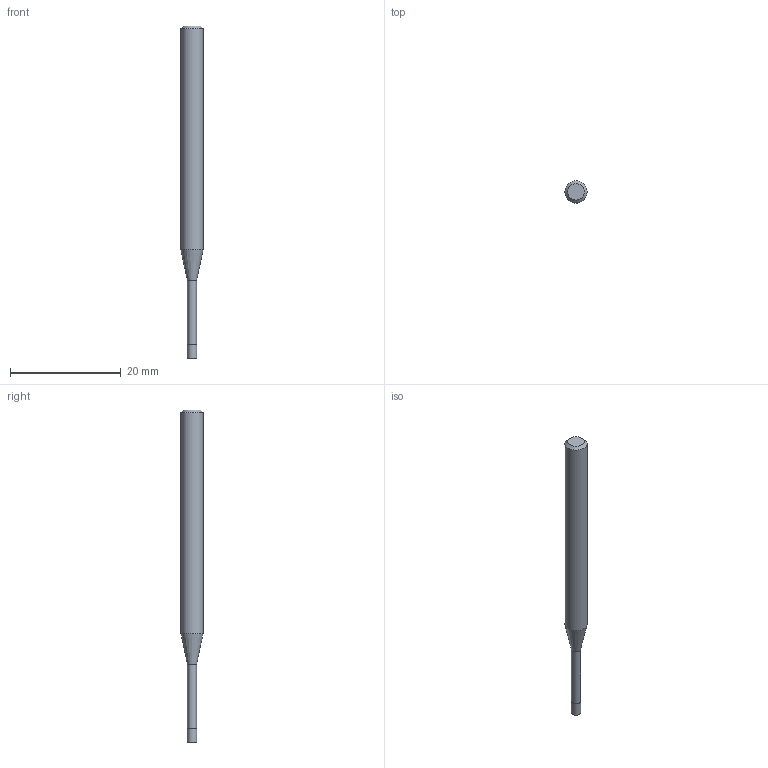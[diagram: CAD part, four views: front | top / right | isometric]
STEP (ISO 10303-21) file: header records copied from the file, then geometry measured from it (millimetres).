
FILE_DESCRIPTION((''),'2;1');
FILE_NAME('C:\Users\nsx150\AppData\Local\Temp\Mastercam 2021\17T8Q8S9EB\TEMP.step','2021-04-21T16:15:14',(''),(''),'STEP Write','Mastercam 2021 ... CNC Software, Inc.','');
FILE_SCHEMA(('AUTOMOTIVE_DESIGN'));
Length unit declared in the file: millimetre
Products named in the file (1): None
Bounding box: 4 x 4 x 60 mm (x, y, z)
Volume: 574.1 mm3; surface area: 646.9 mm2
Topology: 2 solids, 2 shells, 9 faces, 12 edges, 7 vertices
Faces by surface type: plane 4, cylinder 3, cone 2
Full cylindrical faces by diameter (mm): 1.65 x1, 1.7 x1, 4 x1
Entity records: 211 total; most frequent: DIRECTION 36, CARTESIAN_POINT 25, AXIS2_PLACEMENT_3D 18, ORIENTED_EDGE 14, EDGE_LOOP 14, STYLED_ITEM 12, ADVANCED_FACE 9, FACE_BOUND 8
